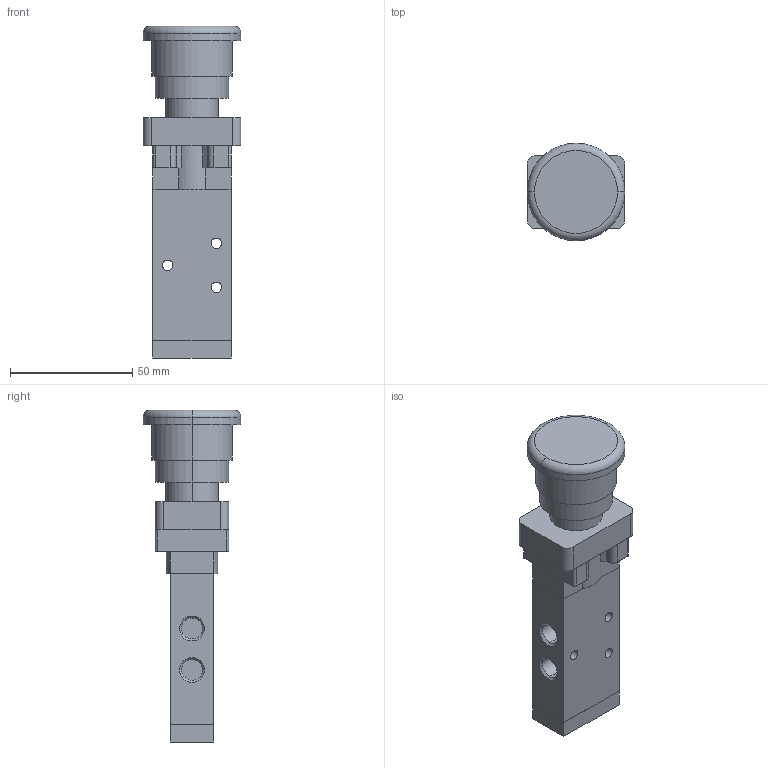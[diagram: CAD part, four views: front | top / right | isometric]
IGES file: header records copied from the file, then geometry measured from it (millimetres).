
Global section: file name: No Iges File Name specified; native system: AutoDesk Inventor R11.0; preprocessor: AutoDesk Inventor Iges Exporter R11.0; author: No Author specified; organization: No Organization specified; date: 20061219.114226; units: millimetre
Bounding box: 40 x 40 x 136 mm (x, y, z)
Volume: 92099.3 mm3; surface area: 19905.3 mm2
Topology: 1 solids, 1 shells, 105 faces, 260 edges, 168 vertices
Faces by surface type: plane 46, bspline 25, cylinder 22, revolution 10, torus 2
